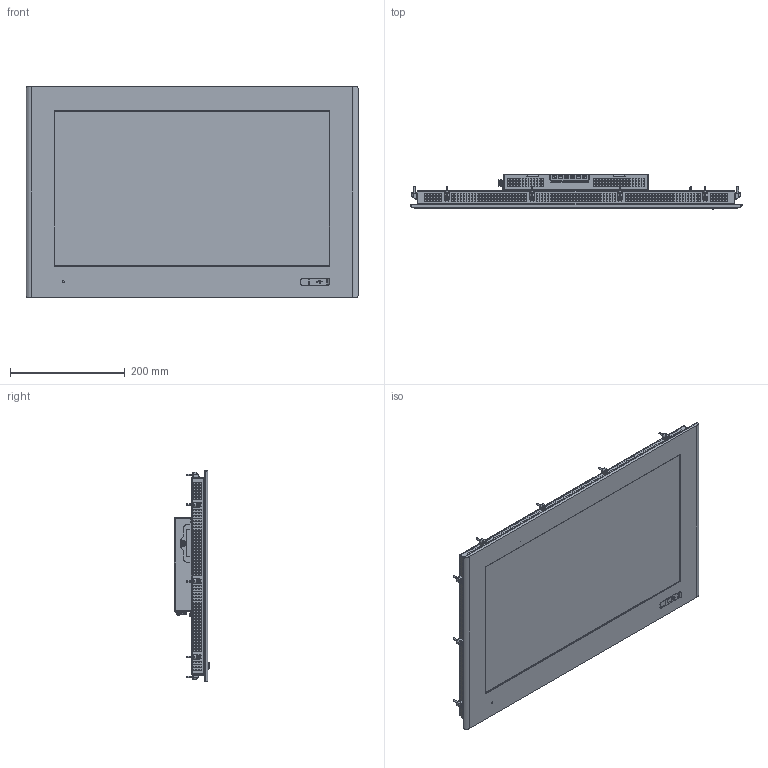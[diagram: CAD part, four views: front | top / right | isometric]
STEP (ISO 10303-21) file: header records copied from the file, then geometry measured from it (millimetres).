
FILE_DESCRIPTION((''),'2;1');
FILE_NAME('C6E22-Panel_215W_RES_SL','2017-03-07T',('manpal'),(''),'PRO/ENGINEER BY PARAMETRIC TECHNOLOGY CORPORATION, 2013410','PRO/ENGINEER BY PARAMETRIC TECHNOLOGY CORPORATION, 2013410','');
FILE_SCHEMA(('AUTOMOTIVE_DESIGN { 1 0 10303 214 1 1 1 1 }'));
Products named in the file (2): C6E22-Panel_215W_RES_SL_
Assembly tree (1 placements, depth 2):
  C6E22-Panel_215W_RES_SL_
    C6E22-Panel_215W_RES_SL_
Bounding box: 578.5 x 61.04 x 367 mm (x, y, z)
Surface area: 1082249.4 mm2 (no closed solid volume)
Topology: 0 solids, 373 shells, 4522 faces, 21416 edges, 17101 vertices
Faces by surface type: plane 3456, cylinder 660, cone 222, bspline 111, torus 44, sphere 27, extrusion 2
Entity records: 243212 total; most frequent: CARTESIAN_POINT 55513, DIRECTION 32007, ORIENTED_EDGE 29624, EDGE_CURVE 21374, VECTOR 17159, LINE 17157, VERTEX_POINT 17101, AXIS2_PLACEMENT_3D 7424
